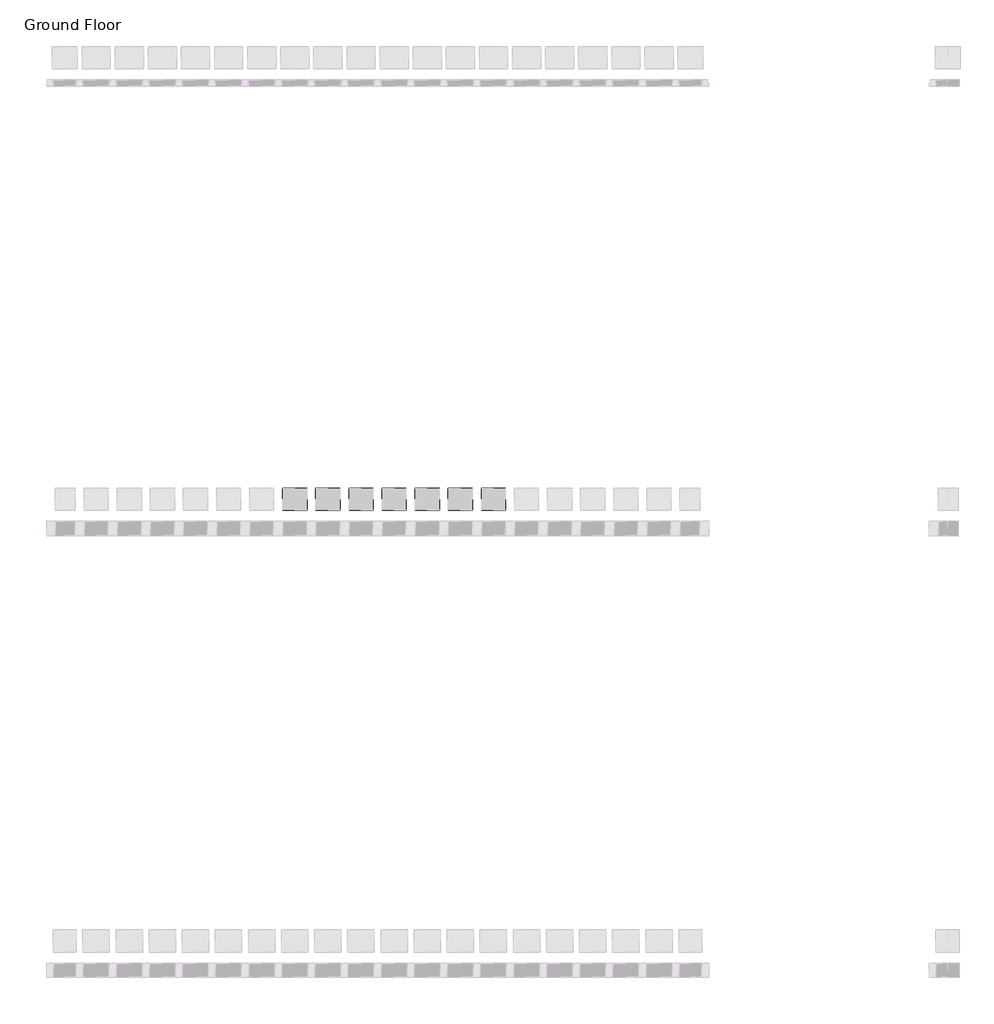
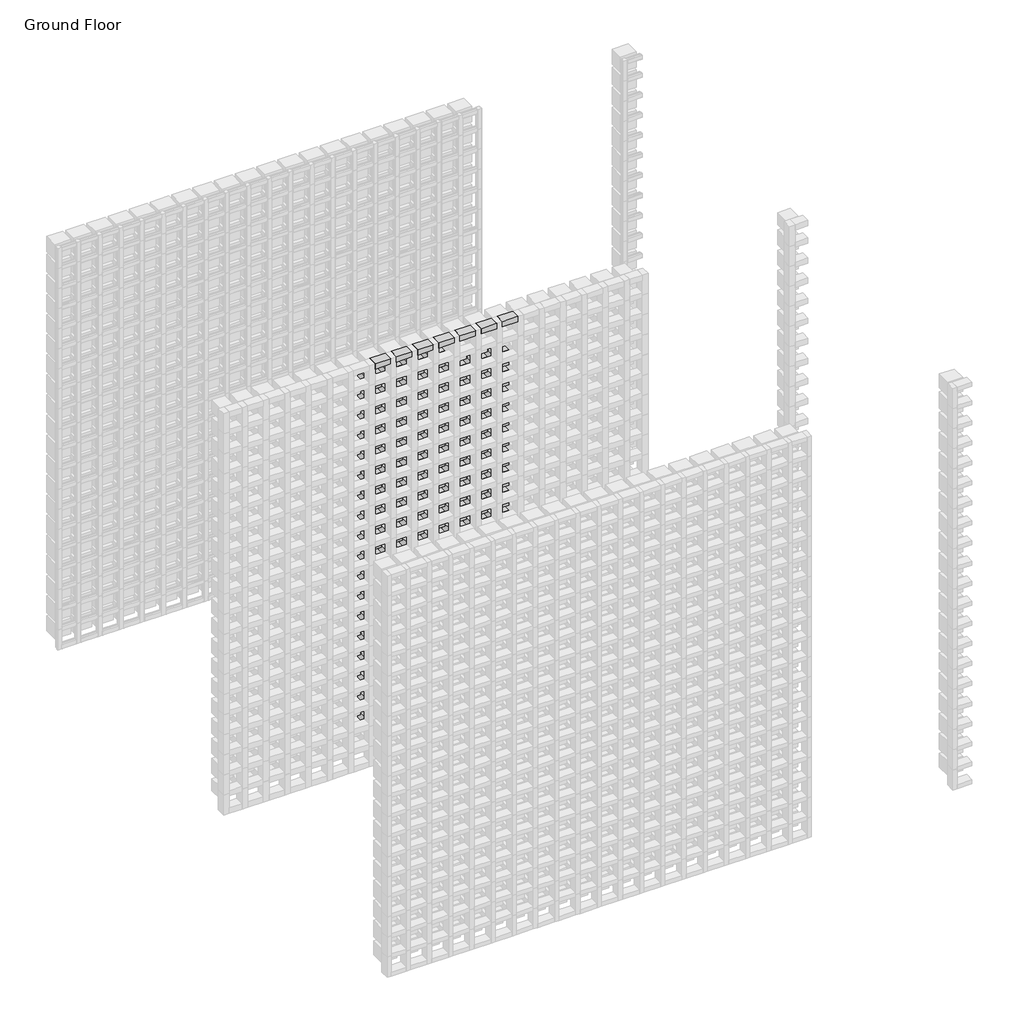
# One storey, part 147 of 350: 123 plates, 17 members.
"""IFC4 building model written with IfcOpenShell, lengths in millimetres."""

from ifc_helpers import new_model, si_unit, origin, place, context, project, spatial, transform, mapped, element, save
from components import rectangular_mullion_655930e9, rectangular_mullion_581565bb, rectangular_mullion_d5b82d3d, empty_system_panel_empty_3b500fad

model = new_model("IFC4")

# Units and contexts
model_context = context("Model", 3, world=origin())
ifc_project = project(units=[si_unit("LENGTHUNIT", "METRE", prefix="MILLI")], contexts=[model_context])

# Site, building, storey
site = spatial("IfcSite", under=ifc_project)
building = spatial("IfcBuilding", under=site)
storey = spatial("IfcBuildingStorey", under=building, Name="Ground Floor", Elevation=0.0)

# Members
placement = place(None, origin())
rectangular_mullion_shape = rectangular_mullion_655930e9(model_context)
element("IfcMember", 1, ObjectType="Rectangular Mullion : Batten_Timber_Modinex_Austratus_Grid_Fascia_40x65_Ironbark", at=placement, inside=storey, context=model_context, shape_type="MappedRepresentation", body=[
    mapped(rectangular_mullion_shape, transform((15416.4361642, 40968.2978302, 0.0), x_axis=(1.0, 0.0, 0.0), y_axis=(0.0, -1.0, 0.0), z_axis=(0.0, 0.0, -1.0))),
])
element("IfcMember", 2, ObjectType="Rectangular Mullion : Batten_Timber_Modinex_Austratus_Grid_Fascia_40x65_Ironbark", at=placement, inside=storey, context=model_context, shape_type="MappedRepresentation", body=[
    mapped(rectangular_mullion_shape, transform((15566.4361642, 40968.2978302, 0.0), x_axis=(1.0, 0.0, 0.0), y_axis=(0.0, -1.0, 0.0), z_axis=(0.0, 0.0, -1.0))),
])
element("IfcMember", 3, ObjectType="Rectangular Mullion : Batten_Timber_Modinex_Austratus_Grid_Fascia_40x65_Ironbark", at=placement, inside=storey, context=model_context, shape_type="MappedRepresentation", body=[
    mapped(rectangular_mullion_shape, transform((15716.4361642, 40968.2978302, 0.0), x_axis=(1.0, 0.0, 0.0), y_axis=(0.0, -1.0, 0.0), z_axis=(0.0, 0.0, -1.0))),
])
element("IfcMember", 4, ObjectType="Rectangular Mullion : Batten_Timber_Modinex_Austratus_Grid_Fascia_40x65_Ironbark", at=placement, inside=storey, context=model_context, shape_type="MappedRepresentation", body=[
    mapped(rectangular_mullion_shape, transform((15866.4361642, 40968.2978302, 0.0), x_axis=(1.0, 0.0, 0.0), y_axis=(0.0, -1.0, 0.0), z_axis=(0.0, 0.0, -1.0))),
])
rectangular_mullion_2_shape = rectangular_mullion_581565bb(model_context)
element("IfcMember", 5, ObjectType="Rectangular Mullion : Batten_Timber_Modinex_Austratus_Grid_Fascia_40x65_Ironbark", at=placement, inside=storey, context=model_context, shape_type="MappedRepresentation", body=[
    mapped(rectangular_mullion_2_shape, transform((15096.4361642, 40968.2978302, 3000.0), x_axis=(0.0, 0.0, 1.0), y_axis=(0.0, -1.0, 0.0), z_axis=(1.0, 0.0, 0.0))),
])
element("IfcMember", 6, ObjectType="Rectangular Mullion : Batten_Timber_Modinex_Austratus_Grid_Fascia_40x65_Ironbark", at=placement, inside=storey, context=model_context, shape_type="MappedRepresentation", body=[
    mapped(rectangular_mullion_2_shape, transform((15246.4361642, 40968.2978302, 3000.0), x_axis=(0.0, 0.0, 1.0), y_axis=(0.0, -1.0, 0.0), z_axis=(1.0, 0.0, 0.0))),
])
element("IfcMember", 7, ObjectType="Rectangular Mullion : Batten_Timber_Modinex_Austratus_Grid_Fascia_40x65_Ironbark", at=placement, inside=storey, context=model_context, shape_type="MappedRepresentation", body=[
    mapped(rectangular_mullion_2_shape, transform((15396.4361642, 40968.2978302, 3000.0), x_axis=(0.0, 0.0, 1.0), y_axis=(0.0, -1.0, 0.0), z_axis=(1.0, 0.0, 0.0))),
])
element("IfcMember", 8, ObjectType="Rectangular Mullion : Batten_Timber_Modinex_Austratus_Grid_Fascia_40x65_Ironbark", at=placement, inside=storey, context=model_context, shape_type="MappedRepresentation", body=[
    mapped(rectangular_mullion_2_shape, transform((15546.4361642, 40968.2978302, 3000.0), x_axis=(0.0, 0.0, 1.0), y_axis=(0.0, -1.0, 0.0), z_axis=(1.0, 0.0, 0.0))),
])
element("IfcMember", 9, ObjectType="Rectangular Mullion : Batten_Timber_Modinex_Austratus_Grid_Fascia_40x65_Ironbark", at=placement, inside=storey, context=model_context, shape_type="MappedRepresentation", body=[
    mapped(rectangular_mullion_2_shape, transform((15696.4361642, 40968.2978302, 3000.0), x_axis=(0.0, 0.0, 1.0), y_axis=(0.0, -1.0, 0.0), z_axis=(1.0, 0.0, 0.0))),
])
element("IfcMember", 10, ObjectType="Rectangular Mullion : Batten_Timber_Modinex_Austratus_Grid_Fascia_40x65_Ironbark", at=placement, inside=storey, context=model_context, shape_type="MappedRepresentation", body=[
    mapped(rectangular_mullion_2_shape, transform((15846.4361642, 40968.2978302, 3000.0), x_axis=(0.0, 0.0, 1.0), y_axis=(0.0, -1.0, 0.0), z_axis=(1.0, 0.0, 0.0))),
])
element("IfcMember", 11, ObjectType="Rectangular Mullion : Batten_Timber_Modinex_Austratus_Grid_Fascia_40x65_Ironbark", at=placement, inside=storey, context=model_context, shape_type="MappedRepresentation", body=[
    mapped(rectangular_mullion_2_shape, transform((15996.4361642, 40968.2978302, 3000.0), x_axis=(0.0, 0.0, 1.0), y_axis=(0.0, -1.0, 0.0), z_axis=(1.0, 0.0, 0.0))),
])
rectangular_mullion_3_shape = rectangular_mullion_d5b82d3d(model_context)
element("IfcMember", 12, ObjectType="Rectangular Mullion : Batten_Timber_Modinex_Austratus_Grid_Fascia_40x65_Ironbark", at=placement, inside=storey, context=model_context, shape_type="MappedRepresentation", body=[
    mapped(rectangular_mullion_3_shape, transform((15136.4361642, 40968.2978302, 0.0), x_axis=(0.0, 0.0, -1.0), y_axis=(0.0, -1.0, 0.0), z_axis=(-1.0, 0.0, 0.0))),
])
element("IfcMember", 13, ObjectType="Rectangular Mullion : Batten_Timber_Modinex_Austratus_Grid_Fascia_40x65_Ironbark", at=placement, inside=storey, context=model_context, shape_type="MappedRepresentation", body=[
    mapped(rectangular_mullion_3_shape, transform((15286.4361642, 40968.2978302, 0.0), x_axis=(0.0, 0.0, -1.0), y_axis=(0.0, -1.0, 0.0), z_axis=(-1.0, 0.0, 0.0))),
])
element("IfcMember", 14, ObjectType="Rectangular Mullion : Batten_Timber_Modinex_Austratus_Grid_Fascia_40x65_Ironbark", at=placement, inside=storey, context=model_context, shape_type="MappedRepresentation", body=[
    mapped(rectangular_mullion_3_shape, transform((15436.4361642, 40968.2978302, 0.0), x_axis=(0.0, 0.0, -1.0), y_axis=(0.0, -1.0, 0.0), z_axis=(-1.0, 0.0, 0.0))),
])
element("IfcMember", 15, ObjectType="Rectangular Mullion : Batten_Timber_Modinex_Austratus_Grid_Fascia_40x65_Ironbark", at=placement, inside=storey, context=model_context, shape_type="MappedRepresentation", body=[
    mapped(rectangular_mullion_3_shape, transform((15586.4361642, 40968.2978302, 0.0), x_axis=(0.0, 0.0, -1.0), y_axis=(0.0, -1.0, 0.0), z_axis=(-1.0, 0.0, 0.0))),
])
element("IfcMember", 16, ObjectType="Rectangular Mullion : Batten_Timber_Modinex_Austratus_Grid_Fascia_40x65_Ironbark", at=placement, inside=storey, context=model_context, shape_type="MappedRepresentation", body=[
    mapped(rectangular_mullion_3_shape, transform((15736.4361642, 40968.2978302, 0.0), x_axis=(0.0, 0.0, -1.0), y_axis=(0.0, -1.0, 0.0), z_axis=(-1.0, 0.0, 0.0))),
])
element("IfcMember", 17, ObjectType="Rectangular Mullion : Batten_Timber_Modinex_Austratus_Grid_Fascia_40x65_Ironbark", at=placement, inside=storey, context=model_context, shape_type="MappedRepresentation", body=[
    mapped(rectangular_mullion_3_shape, transform((15886.4361642, 40968.2978302, 0.0), x_axis=(0.0, 0.0, -1.0), y_axis=(0.0, -1.0, 0.0), z_axis=(-1.0, 0.0, 0.0))),
])

# Plates
empty_system_panel_empty_shape = empty_system_panel_empty_3b500fad(model_context)
element("IfcPlate", 18, ObjectType="Empty System Panel : Empty", at=placement, inside=storey, context=model_context, shape_type="MappedRepresentation", body=[
    mapped(empty_system_panel_empty_shape, transform((15041.4361642, 40968.2978302, 170.0), x_axis=(1.0, 0.0, 0.0), y_axis=(0.0, 1.0, 0.0), z_axis=(0.0, 0.0, 1.0))),
])
element("IfcPlate", 19, ObjectType="Empty System Panel : Empty", at=placement, inside=storey, context=model_context, shape_type="MappedRepresentation", body=[
    mapped(empty_system_panel_empty_shape, transform((15191.4361642, 40968.2978302, 170.0), x_axis=(1.0, 0.0, 0.0), y_axis=(0.0, 1.0, 0.0), z_axis=(0.0, 0.0, 1.0))),
])
element("IfcPlate", 20, ObjectType="Empty System Panel : Empty", at=placement, inside=storey, context=model_context, shape_type="MappedRepresentation", body=[
    mapped(empty_system_panel_empty_shape, transform((15341.4361642, 40968.2978302, 170.0), x_axis=(1.0, 0.0, 0.0), y_axis=(0.0, 1.0, 0.0), z_axis=(0.0, 0.0, 1.0))),
])
element("IfcPlate", 21, ObjectType="Empty System Panel : Empty", at=placement, inside=storey, context=model_context, shape_type="MappedRepresentation", body=[
    mapped(empty_system_panel_empty_shape, transform((15491.4361642, 40968.2978302, 170.0), x_axis=(1.0, 0.0, 0.0), y_axis=(0.0, 1.0, 0.0), z_axis=(0.0, 0.0, 1.0))),
])
element("IfcPlate", 22, ObjectType="Empty System Panel : Empty", at=placement, inside=storey, context=model_context, shape_type="MappedRepresentation", body=[
    mapped(empty_system_panel_empty_shape, transform((15641.4361642, 40968.2978302, 170.0), x_axis=(1.0, 0.0, 0.0), y_axis=(0.0, 1.0, 0.0), z_axis=(0.0, 0.0, 1.0))),
])
element("IfcPlate", 23, ObjectType="Empty System Panel : Empty", at=placement, inside=storey, context=model_context, shape_type="MappedRepresentation", body=[
    mapped(empty_system_panel_empty_shape, transform((15791.4361642, 40968.2978302, 170.0), x_axis=(1.0, 0.0, 0.0), y_axis=(0.0, 1.0, 0.0), z_axis=(0.0, 0.0, 1.0))),
])
element("IfcPlate", 24, ObjectType="Empty System Panel : Empty", at=placement, inside=storey, context=model_context, shape_type="MappedRepresentation", body=[
    mapped(empty_system_panel_empty_shape, transform((15941.4361642, 40968.2978302, 170.0), x_axis=(1.0, 0.0, 0.0), y_axis=(0.0, 1.0, 0.0), z_axis=(0.0, 0.0, 1.0))),
])
element("IfcPlate", 25, ObjectType="Empty System Panel : Empty", at=placement, inside=storey, context=model_context, shape_type="MappedRepresentation", body=[
    mapped(empty_system_panel_empty_shape, transform((15041.4361642, 40968.2978302, 320.0), x_axis=(1.0, 0.0, 0.0), y_axis=(0.0, 1.0, 0.0), z_axis=(0.0, 0.0, 1.0))),
])
element("IfcPlate", 26, ObjectType="Empty System Panel : Empty", at=placement, inside=storey, context=model_context, shape_type="MappedRepresentation", body=[
    mapped(empty_system_panel_empty_shape, transform((15191.4361642, 40968.2978302, 320.0), x_axis=(1.0, 0.0, 0.0), y_axis=(0.0, 1.0, 0.0), z_axis=(0.0, 0.0, 1.0))),
])
element("IfcPlate", 27, ObjectType="Empty System Panel : Empty", at=placement, inside=storey, context=model_context, shape_type="MappedRepresentation", body=[
    mapped(empty_system_panel_empty_shape, transform((15341.4361642, 40968.2978302, 320.0), x_axis=(1.0, 0.0, 0.0), y_axis=(0.0, 1.0, 0.0), z_axis=(0.0, 0.0, 1.0))),
])
element("IfcPlate", 28, ObjectType="Empty System Panel : Empty", at=placement, inside=storey, context=model_context, shape_type="MappedRepresentation", body=[
    mapped(empty_system_panel_empty_shape, transform((15491.4361642, 40968.2978302, 320.0), x_axis=(1.0, 0.0, 0.0), y_axis=(0.0, 1.0, 0.0), z_axis=(0.0, 0.0, 1.0))),
])
element("IfcPlate", 29, ObjectType="Empty System Panel : Empty", at=placement, inside=storey, context=model_context, shape_type="MappedRepresentation", body=[
    mapped(empty_system_panel_empty_shape, transform((15641.4361642, 40968.2978302, 320.0), x_axis=(1.0, 0.0, 0.0), y_axis=(0.0, 1.0, 0.0), z_axis=(0.0, 0.0, 1.0))),
])
element("IfcPlate", 30, ObjectType="Empty System Panel : Empty", at=placement, inside=storey, context=model_context, shape_type="MappedRepresentation", body=[
    mapped(empty_system_panel_empty_shape, transform((15791.4361642, 40968.2978302, 320.0), x_axis=(1.0, 0.0, 0.0), y_axis=(0.0, 1.0, 0.0), z_axis=(0.0, 0.0, 1.0))),
])
element("IfcPlate", 31, ObjectType="Empty System Panel : Empty", at=placement, inside=storey, context=model_context, shape_type="MappedRepresentation", body=[
    mapped(empty_system_panel_empty_shape, transform((15941.4361642, 40968.2978302, 320.0), x_axis=(1.0, 0.0, 0.0), y_axis=(0.0, 1.0, 0.0), z_axis=(0.0, 0.0, 1.0))),
])
element("IfcPlate", 32, ObjectType="Empty System Panel : Empty", at=placement, inside=storey, context=model_context, shape_type="MappedRepresentation", body=[
    mapped(empty_system_panel_empty_shape, transform((15041.4361642, 40968.2978302, 470.0), x_axis=(1.0, 0.0, 0.0), y_axis=(0.0, 1.0, 0.0), z_axis=(0.0, 0.0, 1.0))),
])
element("IfcPlate", 33, ObjectType="Empty System Panel : Empty", at=placement, inside=storey, context=model_context, shape_type="MappedRepresentation", body=[
    mapped(empty_system_panel_empty_shape, transform((15191.4361642, 40968.2978302, 470.0), x_axis=(1.0, 0.0, 0.0), y_axis=(0.0, 1.0, 0.0), z_axis=(0.0, 0.0, 1.0))),
])
element("IfcPlate", 34, ObjectType="Empty System Panel : Empty", at=placement, inside=storey, context=model_context, shape_type="MappedRepresentation", body=[
    mapped(empty_system_panel_empty_shape, transform((15341.4361642, 40968.2978302, 470.0), x_axis=(1.0, 0.0, 0.0), y_axis=(0.0, 1.0, 0.0), z_axis=(0.0, 0.0, 1.0))),
])
element("IfcPlate", 35, ObjectType="Empty System Panel : Empty", at=placement, inside=storey, context=model_context, shape_type="MappedRepresentation", body=[
    mapped(empty_system_panel_empty_shape, transform((15491.4361642, 40968.2978302, 470.0), x_axis=(1.0, 0.0, 0.0), y_axis=(0.0, 1.0, 0.0), z_axis=(0.0, 0.0, 1.0))),
])
element("IfcPlate", 36, ObjectType="Empty System Panel : Empty", at=placement, inside=storey, context=model_context, shape_type="MappedRepresentation", body=[
    mapped(empty_system_panel_empty_shape, transform((15641.4361642, 40968.2978302, 470.0), x_axis=(1.0, 0.0, 0.0), y_axis=(0.0, 1.0, 0.0), z_axis=(0.0, 0.0, 1.0))),
])
element("IfcPlate", 37, ObjectType="Empty System Panel : Empty", at=placement, inside=storey, context=model_context, shape_type="MappedRepresentation", body=[
    mapped(empty_system_panel_empty_shape, transform((15791.4361642, 40968.2978302, 470.0), x_axis=(1.0, 0.0, 0.0), y_axis=(0.0, 1.0, 0.0), z_axis=(0.0, 0.0, 1.0))),
])
element("IfcPlate", 38, ObjectType="Empty System Panel : Empty", at=placement, inside=storey, context=model_context, shape_type="MappedRepresentation", body=[
    mapped(empty_system_panel_empty_shape, transform((15941.4361642, 40968.2978302, 470.0), x_axis=(1.0, 0.0, 0.0), y_axis=(0.0, 1.0, 0.0), z_axis=(0.0, 0.0, 1.0))),
])
element("IfcPlate", 39, ObjectType="Empty System Panel : Empty", at=placement, inside=storey, context=model_context, shape_type="MappedRepresentation", body=[
    mapped(empty_system_panel_empty_shape, transform((15041.4361642, 40968.2978302, 620.0), x_axis=(1.0, 0.0, 0.0), y_axis=(0.0, 1.0, 0.0), z_axis=(0.0, 0.0, 1.0))),
])
element("IfcPlate", 40, ObjectType="Empty System Panel : Empty", at=placement, inside=storey, context=model_context, shape_type="MappedRepresentation", body=[
    mapped(empty_system_panel_empty_shape, transform((15191.4361642, 40968.2978302, 620.0), x_axis=(1.0, 0.0, 0.0), y_axis=(0.0, 1.0, 0.0), z_axis=(0.0, 0.0, 1.0))),
])
element("IfcPlate", 41, ObjectType="Empty System Panel : Empty", at=placement, inside=storey, context=model_context, shape_type="MappedRepresentation", body=[
    mapped(empty_system_panel_empty_shape, transform((15341.4361642, 40968.2978302, 620.0), x_axis=(1.0, 0.0, 0.0), y_axis=(0.0, 1.0, 0.0), z_axis=(0.0, 0.0, 1.0))),
])
element("IfcPlate", 42, ObjectType="Empty System Panel : Empty", at=placement, inside=storey, context=model_context, shape_type="MappedRepresentation", body=[
    mapped(empty_system_panel_empty_shape, transform((15491.4361642, 40968.2978302, 620.0), x_axis=(1.0, 0.0, 0.0), y_axis=(0.0, 1.0, 0.0), z_axis=(0.0, 0.0, 1.0))),
])
element("IfcPlate", 43, ObjectType="Empty System Panel : Empty", at=placement, inside=storey, context=model_context, shape_type="MappedRepresentation", body=[
    mapped(empty_system_panel_empty_shape, transform((15641.4361642, 40968.2978302, 620.0), x_axis=(1.0, 0.0, 0.0), y_axis=(0.0, 1.0, 0.0), z_axis=(0.0, 0.0, 1.0))),
])
element("IfcPlate", 44, ObjectType="Empty System Panel : Empty", at=placement, inside=storey, context=model_context, shape_type="MappedRepresentation", body=[
    mapped(empty_system_panel_empty_shape, transform((15791.4361642, 40968.2978302, 620.0), x_axis=(1.0, 0.0, 0.0), y_axis=(0.0, 1.0, 0.0), z_axis=(0.0, 0.0, 1.0))),
])
element("IfcPlate", 45, ObjectType="Empty System Panel : Empty", at=placement, inside=storey, context=model_context, shape_type="MappedRepresentation", body=[
    mapped(empty_system_panel_empty_shape, transform((15941.4361642, 40968.2978302, 620.0), x_axis=(1.0, 0.0, 0.0), y_axis=(0.0, 1.0, 0.0), z_axis=(0.0, 0.0, 1.0))),
])
element("IfcPlate", 46, ObjectType="Empty System Panel : Empty", at=placement, inside=storey, context=model_context, shape_type="MappedRepresentation", body=[
    mapped(empty_system_panel_empty_shape, transform((15041.4361642, 40968.2978302, 770.0), x_axis=(1.0, 0.0, 0.0), y_axis=(0.0, 1.0, 0.0), z_axis=(0.0, 0.0, 1.0))),
])
element("IfcPlate", 47, ObjectType="Empty System Panel : Empty", at=placement, inside=storey, context=model_context, shape_type="MappedRepresentation", body=[
    mapped(empty_system_panel_empty_shape, transform((15191.4361642, 40968.2978302, 770.0), x_axis=(1.0, 0.0, 0.0), y_axis=(0.0, 1.0, 0.0), z_axis=(0.0, 0.0, 1.0))),
])
element("IfcPlate", 48, ObjectType="Empty System Panel : Empty", at=placement, inside=storey, context=model_context, shape_type="MappedRepresentation", body=[
    mapped(empty_system_panel_empty_shape, transform((15341.4361642, 40968.2978302, 770.0), x_axis=(1.0, 0.0, 0.0), y_axis=(0.0, 1.0, 0.0), z_axis=(0.0, 0.0, 1.0))),
])
element("IfcPlate", 49, ObjectType="Empty System Panel : Empty", at=placement, inside=storey, context=model_context, shape_type="MappedRepresentation", body=[
    mapped(empty_system_panel_empty_shape, transform((15491.4361642, 40968.2978302, 770.0), x_axis=(1.0, 0.0, 0.0), y_axis=(0.0, 1.0, 0.0), z_axis=(0.0, 0.0, 1.0))),
])
element("IfcPlate", 50, ObjectType="Empty System Panel : Empty", at=placement, inside=storey, context=model_context, shape_type="MappedRepresentation", body=[
    mapped(empty_system_panel_empty_shape, transform((15641.4361642, 40968.2978302, 770.0), x_axis=(1.0, 0.0, 0.0), y_axis=(0.0, 1.0, 0.0), z_axis=(0.0, 0.0, 1.0))),
])
element("IfcPlate", 51, ObjectType="Empty System Panel : Empty", at=placement, inside=storey, context=model_context, shape_type="MappedRepresentation", body=[
    mapped(empty_system_panel_empty_shape, transform((15791.4361642, 40968.2978302, 770.0), x_axis=(1.0, 0.0, 0.0), y_axis=(0.0, 1.0, 0.0), z_axis=(0.0, 0.0, 1.0))),
])
element("IfcPlate", 52, ObjectType="Empty System Panel : Empty", at=placement, inside=storey, context=model_context, shape_type="MappedRepresentation", body=[
    mapped(empty_system_panel_empty_shape, transform((15941.4361642, 40968.2978302, 770.0), x_axis=(1.0, 0.0, 0.0), y_axis=(0.0, 1.0, 0.0), z_axis=(0.0, 0.0, 1.0))),
])
element("IfcPlate", 53, ObjectType="Empty System Panel : Empty", at=placement, inside=storey, context=model_context, shape_type="MappedRepresentation", body=[
    mapped(empty_system_panel_empty_shape, transform((15041.4361642, 40968.2978302, 920.0), x_axis=(1.0, 0.0, 0.0), y_axis=(0.0, 1.0, 0.0), z_axis=(0.0, 0.0, 1.0))),
])
element("IfcPlate", 54, ObjectType="Empty System Panel : Empty", at=placement, inside=storey, context=model_context, shape_type="MappedRepresentation", body=[
    mapped(empty_system_panel_empty_shape, transform((15191.4361642, 40968.2978302, 920.0), x_axis=(1.0, 0.0, 0.0), y_axis=(0.0, 1.0, 0.0), z_axis=(0.0, 0.0, 1.0))),
])
element("IfcPlate", 55, ObjectType="Empty System Panel : Empty", at=placement, inside=storey, context=model_context, shape_type="MappedRepresentation", body=[
    mapped(empty_system_panel_empty_shape, transform((15341.4361642, 40968.2978302, 920.0), x_axis=(1.0, 0.0, 0.0), y_axis=(0.0, 1.0, 0.0), z_axis=(0.0, 0.0, 1.0))),
])
element("IfcPlate", 56, ObjectType="Empty System Panel : Empty", at=placement, inside=storey, context=model_context, shape_type="MappedRepresentation", body=[
    mapped(empty_system_panel_empty_shape, transform((15491.4361642, 40968.2978302, 920.0), x_axis=(1.0, 0.0, 0.0), y_axis=(0.0, 1.0, 0.0), z_axis=(0.0, 0.0, 1.0))),
])
element("IfcPlate", 57, ObjectType="Empty System Panel : Empty", at=placement, inside=storey, context=model_context, shape_type="MappedRepresentation", body=[
    mapped(empty_system_panel_empty_shape, transform((15641.4361642, 40968.2978302, 920.0), x_axis=(1.0, 0.0, 0.0), y_axis=(0.0, 1.0, 0.0), z_axis=(0.0, 0.0, 1.0))),
])
element("IfcPlate", 58, ObjectType="Empty System Panel : Empty", at=placement, inside=storey, context=model_context, shape_type="MappedRepresentation", body=[
    mapped(empty_system_panel_empty_shape, transform((15791.4361642, 40968.2978302, 920.0), x_axis=(1.0, 0.0, 0.0), y_axis=(0.0, 1.0, 0.0), z_axis=(0.0, 0.0, 1.0))),
])
element("IfcPlate", 59, ObjectType="Empty System Panel : Empty", at=placement, inside=storey, context=model_context, shape_type="MappedRepresentation", body=[
    mapped(empty_system_panel_empty_shape, transform((15941.4361642, 40968.2978302, 920.0), x_axis=(1.0, 0.0, 0.0), y_axis=(0.0, 1.0, 0.0), z_axis=(0.0, 0.0, 1.0))),
])
element("IfcPlate", 60, ObjectType="Empty System Panel : Empty", at=placement, inside=storey, context=model_context, shape_type="MappedRepresentation", body=[
    mapped(empty_system_panel_empty_shape, transform((15041.4361642, 40968.2978302, 1070.0), x_axis=(1.0, 0.0, 0.0), y_axis=(0.0, 1.0, 0.0), z_axis=(0.0, 0.0, 1.0))),
])
element("IfcPlate", 61, ObjectType="Empty System Panel : Empty", at=placement, inside=storey, context=model_context, shape_type="MappedRepresentation", body=[
    mapped(empty_system_panel_empty_shape, transform((15191.4361642, 40968.2978302, 1070.0), x_axis=(1.0, 0.0, 0.0), y_axis=(0.0, 1.0, 0.0), z_axis=(0.0, 0.0, 1.0))),
])
element("IfcPlate", 62, ObjectType="Empty System Panel : Empty", at=placement, inside=storey, context=model_context, shape_type="MappedRepresentation", body=[
    mapped(empty_system_panel_empty_shape, transform((15341.4361642, 40968.2978302, 1070.0), x_axis=(1.0, 0.0, 0.0), y_axis=(0.0, 1.0, 0.0), z_axis=(0.0, 0.0, 1.0))),
])
element("IfcPlate", 63, ObjectType="Empty System Panel : Empty", at=placement, inside=storey, context=model_context, shape_type="MappedRepresentation", body=[
    mapped(empty_system_panel_empty_shape, transform((15491.4361642, 40968.2978302, 1070.0), x_axis=(1.0, 0.0, 0.0), y_axis=(0.0, 1.0, 0.0), z_axis=(0.0, 0.0, 1.0))),
])
element("IfcPlate", 64, ObjectType="Empty System Panel : Empty", at=placement, inside=storey, context=model_context, shape_type="MappedRepresentation", body=[
    mapped(empty_system_panel_empty_shape, transform((15641.4361642, 40968.2978302, 1070.0), x_axis=(1.0, 0.0, 0.0), y_axis=(0.0, 1.0, 0.0), z_axis=(0.0, 0.0, 1.0))),
])
element("IfcPlate", 65, ObjectType="Empty System Panel : Empty", at=placement, inside=storey, context=model_context, shape_type="MappedRepresentation", body=[
    mapped(empty_system_panel_empty_shape, transform((15791.4361642, 40968.2978302, 1070.0), x_axis=(1.0, 0.0, 0.0), y_axis=(0.0, 1.0, 0.0), z_axis=(0.0, 0.0, 1.0))),
])
element("IfcPlate", 66, ObjectType="Empty System Panel : Empty", at=placement, inside=storey, context=model_context, shape_type="MappedRepresentation", body=[
    mapped(empty_system_panel_empty_shape, transform((15941.4361642, 40968.2978302, 1070.0), x_axis=(1.0, 0.0, 0.0), y_axis=(0.0, 1.0, 0.0), z_axis=(0.0, 0.0, 1.0))),
])
element("IfcPlate", 67, ObjectType="Empty System Panel : Empty", at=placement, inside=storey, context=model_context, shape_type="MappedRepresentation", body=[
    mapped(empty_system_panel_empty_shape, transform((15041.4361642, 40968.2978302, 1220.0), x_axis=(1.0, 0.0, 0.0), y_axis=(0.0, 1.0, 0.0), z_axis=(0.0, 0.0, 1.0))),
])
element("IfcPlate", 68, ObjectType="Empty System Panel : Empty", at=placement, inside=storey, context=model_context, shape_type="MappedRepresentation", body=[
    mapped(empty_system_panel_empty_shape, transform((15191.4361642, 40968.2978302, 1220.0), x_axis=(1.0, 0.0, 0.0), y_axis=(0.0, 1.0, 0.0), z_axis=(0.0, 0.0, 1.0))),
])
element("IfcPlate", 69, ObjectType="Empty System Panel : Empty", at=placement, inside=storey, context=model_context, shape_type="MappedRepresentation", body=[
    mapped(empty_system_panel_empty_shape, transform((15341.4361642, 40968.2978302, 1220.0), x_axis=(1.0, 0.0, 0.0), y_axis=(0.0, 1.0, 0.0), z_axis=(0.0, 0.0, 1.0))),
])
element("IfcPlate", 70, ObjectType="Empty System Panel : Empty", at=placement, inside=storey, context=model_context, shape_type="MappedRepresentation", body=[
    mapped(empty_system_panel_empty_shape, transform((15491.4361642, 40968.2978302, 1220.0), x_axis=(1.0, 0.0, 0.0), y_axis=(0.0, 1.0, 0.0), z_axis=(0.0, 0.0, 1.0))),
])
element("IfcPlate", 71, ObjectType="Empty System Panel : Empty", at=placement, inside=storey, context=model_context, shape_type="MappedRepresentation", body=[
    mapped(empty_system_panel_empty_shape, transform((15641.4361642, 40968.2978302, 1220.0), x_axis=(1.0, 0.0, 0.0), y_axis=(0.0, 1.0, 0.0), z_axis=(0.0, 0.0, 1.0))),
])
element("IfcPlate", 72, ObjectType="Empty System Panel : Empty", at=placement, inside=storey, context=model_context, shape_type="MappedRepresentation", body=[
    mapped(empty_system_panel_empty_shape, transform((15791.4361642, 40968.2978302, 1220.0), x_axis=(1.0, 0.0, 0.0), y_axis=(0.0, 1.0, 0.0), z_axis=(0.0, 0.0, 1.0))),
])
element("IfcPlate", 73, ObjectType="Empty System Panel : Empty", at=placement, inside=storey, context=model_context, shape_type="MappedRepresentation", body=[
    mapped(empty_system_panel_empty_shape, transform((15941.4361642, 40968.2978302, 1220.0), x_axis=(1.0, 0.0, 0.0), y_axis=(0.0, 1.0, 0.0), z_axis=(0.0, 0.0, 1.0))),
])
element("IfcPlate", 74, ObjectType="Empty System Panel : Empty", at=placement, inside=storey, context=model_context, shape_type="MappedRepresentation", body=[
    mapped(empty_system_panel_empty_shape, transform((15041.4361642, 40968.2978302, 1370.0), x_axis=(1.0, 0.0, 0.0), y_axis=(0.0, 1.0, 0.0), z_axis=(0.0, 0.0, 1.0))),
])
element("IfcPlate", 75, ObjectType="Empty System Panel : Empty", at=placement, inside=storey, context=model_context, shape_type="MappedRepresentation", body=[
    mapped(empty_system_panel_empty_shape, transform((15191.4361642, 40968.2978302, 1370.0), x_axis=(1.0, 0.0, 0.0), y_axis=(0.0, 1.0, 0.0), z_axis=(0.0, 0.0, 1.0))),
])
element("IfcPlate", 76, ObjectType="Empty System Panel : Empty", at=placement, inside=storey, context=model_context, shape_type="MappedRepresentation", body=[
    mapped(empty_system_panel_empty_shape, transform((15341.4361642, 40968.2978302, 1370.0), x_axis=(1.0, 0.0, 0.0), y_axis=(0.0, 1.0, 0.0), z_axis=(0.0, 0.0, 1.0))),
])
element("IfcPlate", 77, ObjectType="Empty System Panel : Empty", at=placement, inside=storey, context=model_context, shape_type="MappedRepresentation", body=[
    mapped(empty_system_panel_empty_shape, transform((15491.4361642, 40968.2978302, 1370.0), x_axis=(1.0, 0.0, 0.0), y_axis=(0.0, 1.0, 0.0), z_axis=(0.0, 0.0, 1.0))),
])
element("IfcPlate", 78, ObjectType="Empty System Panel : Empty", at=placement, inside=storey, context=model_context, shape_type="MappedRepresentation", body=[
    mapped(empty_system_panel_empty_shape, transform((15641.4361642, 40968.2978302, 1370.0), x_axis=(1.0, 0.0, 0.0), y_axis=(0.0, 1.0, 0.0), z_axis=(0.0, 0.0, 1.0))),
])
element("IfcPlate", 79, ObjectType="Empty System Panel : Empty", at=placement, inside=storey, context=model_context, shape_type="MappedRepresentation", body=[
    mapped(empty_system_panel_empty_shape, transform((15791.4361642, 40968.2978302, 1370.0), x_axis=(1.0, 0.0, 0.0), y_axis=(0.0, 1.0, 0.0), z_axis=(0.0, 0.0, 1.0))),
])
element("IfcPlate", 80, ObjectType="Empty System Panel : Empty", at=placement, inside=storey, context=model_context, shape_type="MappedRepresentation", body=[
    mapped(empty_system_panel_empty_shape, transform((15941.4361642, 40968.2978302, 1370.0), x_axis=(1.0, 0.0, 0.0), y_axis=(0.0, 1.0, 0.0), z_axis=(0.0, 0.0, 1.0))),
])
element("IfcPlate", 81, ObjectType="Empty System Panel : Empty", at=placement, inside=storey, context=model_context, shape_type="MappedRepresentation", body=[
    mapped(empty_system_panel_empty_shape, transform((15041.4361642, 40968.2978302, 1520.0), x_axis=(1.0, 0.0, 0.0), y_axis=(0.0, 1.0, 0.0), z_axis=(0.0, 0.0, 1.0))),
])
element("IfcPlate", 82, ObjectType="Empty System Panel : Empty", at=placement, inside=storey, context=model_context, shape_type="MappedRepresentation", body=[
    mapped(empty_system_panel_empty_shape, transform((15191.4361642, 40968.2978302, 1520.0), x_axis=(1.0, 0.0, 0.0), y_axis=(0.0, 1.0, 0.0), z_axis=(0.0, 0.0, 1.0))),
])
element("IfcPlate", 83, ObjectType="Empty System Panel : Empty", at=placement, inside=storey, context=model_context, shape_type="MappedRepresentation", body=[
    mapped(empty_system_panel_empty_shape, transform((15341.4361642, 40968.2978302, 1520.0), x_axis=(1.0, 0.0, 0.0), y_axis=(0.0, 1.0, 0.0), z_axis=(0.0, 0.0, 1.0))),
])
element("IfcPlate", 84, ObjectType="Empty System Panel : Empty", at=placement, inside=storey, context=model_context, shape_type="MappedRepresentation", body=[
    mapped(empty_system_panel_empty_shape, transform((15491.4361642, 40968.2978302, 1520.0), x_axis=(1.0, 0.0, 0.0), y_axis=(0.0, 1.0, 0.0), z_axis=(0.0, 0.0, 1.0))),
])
element("IfcPlate", 85, ObjectType="Empty System Panel : Empty", at=placement, inside=storey, context=model_context, shape_type="MappedRepresentation", body=[
    mapped(empty_system_panel_empty_shape, transform((15641.4361642, 40968.2978302, 1520.0), x_axis=(1.0, 0.0, 0.0), y_axis=(0.0, 1.0, 0.0), z_axis=(0.0, 0.0, 1.0))),
])
element("IfcPlate", 86, ObjectType="Empty System Panel : Empty", at=placement, inside=storey, context=model_context, shape_type="MappedRepresentation", body=[
    mapped(empty_system_panel_empty_shape, transform((15791.4361642, 40968.2978302, 1520.0), x_axis=(1.0, 0.0, 0.0), y_axis=(0.0, 1.0, 0.0), z_axis=(0.0, 0.0, 1.0))),
])
element("IfcPlate", 87, ObjectType="Empty System Panel : Empty", at=placement, inside=storey, context=model_context, shape_type="MappedRepresentation", body=[
    mapped(empty_system_panel_empty_shape, transform((15941.4361642, 40968.2978302, 1520.0), x_axis=(1.0, 0.0, 0.0), y_axis=(0.0, 1.0, 0.0), z_axis=(0.0, 0.0, 1.0))),
])
element("IfcPlate", 88, ObjectType="Empty System Panel : Empty", at=placement, inside=storey, context=model_context, shape_type="MappedRepresentation", body=[
    mapped(empty_system_panel_empty_shape, transform((15041.4361642, 40968.2978302, 1670.0), x_axis=(1.0, 0.0, 0.0), y_axis=(0.0, 1.0, 0.0), z_axis=(0.0, 0.0, 1.0))),
])
element("IfcPlate", 89, ObjectType="Empty System Panel : Empty", at=placement, inside=storey, context=model_context, shape_type="MappedRepresentation", body=[
    mapped(empty_system_panel_empty_shape, transform((15191.4361642, 40968.2978302, 1670.0), x_axis=(1.0, 0.0, 0.0), y_axis=(0.0, 1.0, 0.0), z_axis=(0.0, 0.0, 1.0))),
])
element("IfcPlate", 90, ObjectType="Empty System Panel : Empty", at=placement, inside=storey, context=model_context, shape_type="MappedRepresentation", body=[
    mapped(empty_system_panel_empty_shape, transform((15341.4361642, 40968.2978302, 1670.0), x_axis=(1.0, 0.0, 0.0), y_axis=(0.0, 1.0, 0.0), z_axis=(0.0, 0.0, 1.0))),
])
element("IfcPlate", 91, ObjectType="Empty System Panel : Empty", at=placement, inside=storey, context=model_context, shape_type="MappedRepresentation", body=[
    mapped(empty_system_panel_empty_shape, transform((15491.4361642, 40968.2978302, 1670.0), x_axis=(1.0, 0.0, 0.0), y_axis=(0.0, 1.0, 0.0), z_axis=(0.0, 0.0, 1.0))),
])
element("IfcPlate", 92, ObjectType="Empty System Panel : Empty", at=placement, inside=storey, context=model_context, shape_type="MappedRepresentation", body=[
    mapped(empty_system_panel_empty_shape, transform((15641.4361642, 40968.2978302, 1670.0), x_axis=(1.0, 0.0, 0.0), y_axis=(0.0, 1.0, 0.0), z_axis=(0.0, 0.0, 1.0))),
])
element("IfcPlate", 93, ObjectType="Empty System Panel : Empty", at=placement, inside=storey, context=model_context, shape_type="MappedRepresentation", body=[
    mapped(empty_system_panel_empty_shape, transform((15791.4361642, 40968.2978302, 1670.0), x_axis=(1.0, 0.0, 0.0), y_axis=(0.0, 1.0, 0.0), z_axis=(0.0, 0.0, 1.0))),
])
element("IfcPlate", 94, ObjectType="Empty System Panel : Empty", at=placement, inside=storey, context=model_context, shape_type="MappedRepresentation", body=[
    mapped(empty_system_panel_empty_shape, transform((15941.4361642, 40968.2978302, 1670.0), x_axis=(1.0, 0.0, 0.0), y_axis=(0.0, 1.0, 0.0), z_axis=(0.0, 0.0, 1.0))),
])
element("IfcPlate", 95, ObjectType="Empty System Panel : Empty", at=placement, inside=storey, context=model_context, shape_type="MappedRepresentation", body=[
    mapped(empty_system_panel_empty_shape, transform((15041.4361642, 40968.2978302, 1820.0), x_axis=(1.0, 0.0, 0.0), y_axis=(0.0, 1.0, 0.0), z_axis=(0.0, 0.0, 1.0))),
])
element("IfcPlate", 96, ObjectType="Empty System Panel : Empty", at=placement, inside=storey, context=model_context, shape_type="MappedRepresentation", body=[
    mapped(empty_system_panel_empty_shape, transform((15191.4361642, 40968.2978302, 1820.0), x_axis=(1.0, 0.0, 0.0), y_axis=(0.0, 1.0, 0.0), z_axis=(0.0, 0.0, 1.0))),
])
element("IfcPlate", 97, ObjectType="Empty System Panel : Empty", at=placement, inside=storey, context=model_context, shape_type="MappedRepresentation", body=[
    mapped(empty_system_panel_empty_shape, transform((15341.4361642, 40968.2978302, 1820.0), x_axis=(1.0, 0.0, 0.0), y_axis=(0.0, 1.0, 0.0), z_axis=(0.0, 0.0, 1.0))),
])
element("IfcPlate", 98, ObjectType="Empty System Panel : Empty", at=placement, inside=storey, context=model_context, shape_type="MappedRepresentation", body=[
    mapped(empty_system_panel_empty_shape, transform((15491.4361642, 40968.2978302, 1820.0), x_axis=(1.0, 0.0, 0.0), y_axis=(0.0, 1.0, 0.0), z_axis=(0.0, 0.0, 1.0))),
])
element("IfcPlate", 99, ObjectType="Empty System Panel : Empty", at=placement, inside=storey, context=model_context, shape_type="MappedRepresentation", body=[
    mapped(empty_system_panel_empty_shape, transform((15641.4361642, 40968.2978302, 1820.0), x_axis=(1.0, 0.0, 0.0), y_axis=(0.0, 1.0, 0.0), z_axis=(0.0, 0.0, 1.0))),
])
element("IfcPlate", 100, ObjectType="Empty System Panel : Empty", at=placement, inside=storey, context=model_context, shape_type="MappedRepresentation", body=[
    mapped(empty_system_panel_empty_shape, transform((15791.4361642, 40968.2978302, 1820.0), x_axis=(1.0, 0.0, 0.0), y_axis=(0.0, 1.0, 0.0), z_axis=(0.0, 0.0, 1.0))),
])
element("IfcPlate", 101, ObjectType="Empty System Panel : Empty", at=placement, inside=storey, context=model_context, shape_type="MappedRepresentation", body=[
    mapped(empty_system_panel_empty_shape, transform((15941.4361642, 40968.2978302, 1820.0), x_axis=(1.0, 0.0, 0.0), y_axis=(0.0, 1.0, 0.0), z_axis=(0.0, 0.0, 1.0))),
])
element("IfcPlate", 102, ObjectType="Empty System Panel : Empty", at=placement, inside=storey, context=model_context, shape_type="MappedRepresentation", body=[
    mapped(empty_system_panel_empty_shape, transform((15041.4361642, 40968.2978302, 1970.0), x_axis=(1.0, 0.0, 0.0), y_axis=(0.0, 1.0, 0.0), z_axis=(0.0, 0.0, 1.0))),
])
element("IfcPlate", 103, ObjectType="Empty System Panel : Empty", at=placement, inside=storey, context=model_context, shape_type="MappedRepresentation", body=[
    mapped(empty_system_panel_empty_shape, transform((15191.4361642, 40968.2978302, 1970.0), x_axis=(1.0, 0.0, 0.0), y_axis=(0.0, 1.0, 0.0), z_axis=(0.0, 0.0, 1.0))),
])
element("IfcPlate", 104, ObjectType="Empty System Panel : Empty", at=placement, inside=storey, context=model_context, shape_type="MappedRepresentation", body=[
    mapped(empty_system_panel_empty_shape, transform((15341.4361642, 40968.2978302, 1970.0), x_axis=(1.0, 0.0, 0.0), y_axis=(0.0, 1.0, 0.0), z_axis=(0.0, 0.0, 1.0))),
])
element("IfcPlate", 105, ObjectType="Empty System Panel : Empty", at=placement, inside=storey, context=model_context, shape_type="MappedRepresentation", body=[
    mapped(empty_system_panel_empty_shape, transform((15491.4361642, 40968.2978302, 1970.0), x_axis=(1.0, 0.0, 0.0), y_axis=(0.0, 1.0, 0.0), z_axis=(0.0, 0.0, 1.0))),
])
element("IfcPlate", 106, ObjectType="Empty System Panel : Empty", at=placement, inside=storey, context=model_context, shape_type="MappedRepresentation", body=[
    mapped(empty_system_panel_empty_shape, transform((15641.4361642, 40968.2978302, 1970.0), x_axis=(1.0, 0.0, 0.0), y_axis=(0.0, 1.0, 0.0), z_axis=(0.0, 0.0, 1.0))),
])
element("IfcPlate", 107, ObjectType="Empty System Panel : Empty", at=placement, inside=storey, context=model_context, shape_type="MappedRepresentation", body=[
    mapped(empty_system_panel_empty_shape, transform((15791.4361642, 40968.2978302, 1970.0), x_axis=(1.0, 0.0, 0.0), y_axis=(0.0, 1.0, 0.0), z_axis=(0.0, 0.0, 1.0))),
])
element("IfcPlate", 108, ObjectType="Empty System Panel : Empty", at=placement, inside=storey, context=model_context, shape_type="MappedRepresentation", body=[
    mapped(empty_system_panel_empty_shape, transform((15941.4361642, 40968.2978302, 1970.0), x_axis=(1.0, 0.0, 0.0), y_axis=(0.0, 1.0, 0.0), z_axis=(0.0, 0.0, 1.0))),
])
element("IfcPlate", 109, ObjectType="Empty System Panel : Empty", at=placement, inside=storey, context=model_context, shape_type="MappedRepresentation", body=[
    mapped(empty_system_panel_empty_shape, transform((15041.4361642, 40968.2978302, 2120.0), x_axis=(1.0, 0.0, 0.0), y_axis=(0.0, 1.0, 0.0), z_axis=(0.0, 0.0, 1.0))),
])
element("IfcPlate", 110, ObjectType="Empty System Panel : Empty", at=placement, inside=storey, context=model_context, shape_type="MappedRepresentation", body=[
    mapped(empty_system_panel_empty_shape, transform((15191.4361642, 40968.2978302, 2120.0), x_axis=(1.0, 0.0, 0.0), y_axis=(0.0, 1.0, 0.0), z_axis=(0.0, 0.0, 1.0))),
])
element("IfcPlate", 111, ObjectType="Empty System Panel : Empty", at=placement, inside=storey, context=model_context, shape_type="MappedRepresentation", body=[
    mapped(empty_system_panel_empty_shape, transform((15341.4361642, 40968.2978302, 2120.0), x_axis=(1.0, 0.0, 0.0), y_axis=(0.0, 1.0, 0.0), z_axis=(0.0, 0.0, 1.0))),
])
element("IfcPlate", 112, ObjectType="Empty System Panel : Empty", at=placement, inside=storey, context=model_context, shape_type="MappedRepresentation", body=[
    mapped(empty_system_panel_empty_shape, transform((15491.4361642, 40968.2978302, 2120.0), x_axis=(1.0, 0.0, 0.0), y_axis=(0.0, 1.0, 0.0), z_axis=(0.0, 0.0, 1.0))),
])
element("IfcPlate", 113, ObjectType="Empty System Panel : Empty", at=placement, inside=storey, context=model_context, shape_type="MappedRepresentation", body=[
    mapped(empty_system_panel_empty_shape, transform((15641.4361642, 40968.2978302, 2120.0), x_axis=(1.0, 0.0, 0.0), y_axis=(0.0, 1.0, 0.0), z_axis=(0.0, 0.0, 1.0))),
])
element("IfcPlate", 114, ObjectType="Empty System Panel : Empty", at=placement, inside=storey, context=model_context, shape_type="MappedRepresentation", body=[
    mapped(empty_system_panel_empty_shape, transform((15791.4361642, 40968.2978302, 2120.0), x_axis=(1.0, 0.0, 0.0), y_axis=(0.0, 1.0, 0.0), z_axis=(0.0, 0.0, 1.0))),
])
element("IfcPlate", 115, ObjectType="Empty System Panel : Empty", at=placement, inside=storey, context=model_context, shape_type="MappedRepresentation", body=[
    mapped(empty_system_panel_empty_shape, transform((15941.4361642, 40968.2978302, 2120.0), x_axis=(1.0, 0.0, 0.0), y_axis=(0.0, 1.0, 0.0), z_axis=(0.0, 0.0, 1.0))),
])
element("IfcPlate", 116, ObjectType="Empty System Panel : Empty", at=placement, inside=storey, context=model_context, shape_type="MappedRepresentation", body=[
    mapped(empty_system_panel_empty_shape, transform((15041.4361642, 40968.2978302, 2270.0), x_axis=(1.0, 0.0, 0.0), y_axis=(0.0, 1.0, 0.0), z_axis=(0.0, 0.0, 1.0))),
])
element("IfcPlate", 117, ObjectType="Empty System Panel : Empty", at=placement, inside=storey, context=model_context, shape_type="MappedRepresentation", body=[
    mapped(empty_system_panel_empty_shape, transform((15191.4361642, 40968.2978302, 2270.0), x_axis=(1.0, 0.0, 0.0), y_axis=(0.0, 1.0, 0.0), z_axis=(0.0, 0.0, 1.0))),
])
element("IfcPlate", 118, ObjectType="Empty System Panel : Empty", at=placement, inside=storey, context=model_context, shape_type="MappedRepresentation", body=[
    mapped(empty_system_panel_empty_shape, transform((15341.4361642, 40968.2978302, 2270.0), x_axis=(1.0, 0.0, 0.0), y_axis=(0.0, 1.0, 0.0), z_axis=(0.0, 0.0, 1.0))),
])
element("IfcPlate", 119, ObjectType="Empty System Panel : Empty", at=placement, inside=storey, context=model_context, shape_type="MappedRepresentation", body=[
    mapped(empty_system_panel_empty_shape, transform((15491.4361642, 40968.2978302, 2270.0), x_axis=(1.0, 0.0, 0.0), y_axis=(0.0, 1.0, 0.0), z_axis=(0.0, 0.0, 1.0))),
])
element("IfcPlate", 120, ObjectType="Empty System Panel : Empty", at=placement, inside=storey, context=model_context, shape_type="MappedRepresentation", body=[
    mapped(empty_system_panel_empty_shape, transform((15641.4361642, 40968.2978302, 2270.0), x_axis=(1.0, 0.0, 0.0), y_axis=(0.0, 1.0, 0.0), z_axis=(0.0, 0.0, 1.0))),
])
element("IfcPlate", 121, ObjectType="Empty System Panel : Empty", at=placement, inside=storey, context=model_context, shape_type="MappedRepresentation", body=[
    mapped(empty_system_panel_empty_shape, transform((15791.4361642, 40968.2978302, 2270.0), x_axis=(1.0, 0.0, 0.0), y_axis=(0.0, 1.0, 0.0), z_axis=(0.0, 0.0, 1.0))),
])
element("IfcPlate", 122, ObjectType="Empty System Panel : Empty", at=placement, inside=storey, context=model_context, shape_type="MappedRepresentation", body=[
    mapped(empty_system_panel_empty_shape, transform((15941.4361642, 40968.2978302, 2270.0), x_axis=(1.0, 0.0, 0.0), y_axis=(0.0, 1.0, 0.0), z_axis=(0.0, 0.0, 1.0))),
])
element("IfcPlate", 123, ObjectType="Empty System Panel : Empty", at=placement, inside=storey, context=model_context, shape_type="MappedRepresentation", body=[
    mapped(empty_system_panel_empty_shape, transform((15041.4361642, 40968.2978302, 2420.0), x_axis=(1.0, 0.0, 0.0), y_axis=(0.0, 1.0, 0.0), z_axis=(0.0, 0.0, 1.0))),
])
element("IfcPlate", 124, ObjectType="Empty System Panel : Empty", at=placement, inside=storey, context=model_context, shape_type="MappedRepresentation", body=[
    mapped(empty_system_panel_empty_shape, transform((15191.4361642, 40968.2978302, 2420.0), x_axis=(1.0, 0.0, 0.0), y_axis=(0.0, 1.0, 0.0), z_axis=(0.0, 0.0, 1.0))),
])
element("IfcPlate", 125, ObjectType="Empty System Panel : Empty", at=placement, inside=storey, context=model_context, shape_type="MappedRepresentation", body=[
    mapped(empty_system_panel_empty_shape, transform((15341.4361642, 40968.2978302, 2420.0), x_axis=(1.0, 0.0, 0.0), y_axis=(0.0, 1.0, 0.0), z_axis=(0.0, 0.0, 1.0))),
])
element("IfcPlate", 126, ObjectType="Empty System Panel : Empty", at=placement, inside=storey, context=model_context, shape_type="MappedRepresentation", body=[
    mapped(empty_system_panel_empty_shape, transform((15491.4361642, 40968.2978302, 2420.0), x_axis=(1.0, 0.0, 0.0), y_axis=(0.0, 1.0, 0.0), z_axis=(0.0, 0.0, 1.0))),
])
element("IfcPlate", 127, ObjectType="Empty System Panel : Empty", at=placement, inside=storey, context=model_context, shape_type="MappedRepresentation", body=[
    mapped(empty_system_panel_empty_shape, transform((15641.4361642, 40968.2978302, 2420.0), x_axis=(1.0, 0.0, 0.0), y_axis=(0.0, 1.0, 0.0), z_axis=(0.0, 0.0, 1.0))),
])
element("IfcPlate", 128, ObjectType="Empty System Panel : Empty", at=placement, inside=storey, context=model_context, shape_type="MappedRepresentation", body=[
    mapped(empty_system_panel_empty_shape, transform((15791.4361642, 40968.2978302, 2420.0), x_axis=(1.0, 0.0, 0.0), y_axis=(0.0, 1.0, 0.0), z_axis=(0.0, 0.0, 1.0))),
])
element("IfcPlate", 129, ObjectType="Empty System Panel : Empty", at=placement, inside=storey, context=model_context, shape_type="MappedRepresentation", body=[
    mapped(empty_system_panel_empty_shape, transform((15941.4361642, 40968.2978302, 2420.0), x_axis=(1.0, 0.0, 0.0), y_axis=(0.0, 1.0, 0.0), z_axis=(0.0, 0.0, 1.0))),
])
element("IfcPlate", 130, ObjectType="Empty System Panel : Empty", at=placement, inside=storey, context=model_context, shape_type="MappedRepresentation", body=[
    mapped(empty_system_panel_empty_shape, transform((15041.4361642, 40968.2978302, 2570.0), x_axis=(1.0, 0.0, 0.0), y_axis=(0.0, 1.0, 0.0), z_axis=(0.0, 0.0, 1.0))),
])
element("IfcPlate", 131, ObjectType="Empty System Panel : Empty", at=placement, inside=storey, context=model_context, shape_type="MappedRepresentation", body=[
    mapped(empty_system_panel_empty_shape, transform((15191.4361642, 40968.2978302, 2570.0), x_axis=(1.0, 0.0, 0.0), y_axis=(0.0, 1.0, 0.0), z_axis=(0.0, 0.0, 1.0))),
])
element("IfcPlate", 132, ObjectType="Empty System Panel : Empty", at=placement, inside=storey, context=model_context, shape_type="MappedRepresentation", body=[
    mapped(empty_system_panel_empty_shape, transform((15341.4361642, 40968.2978302, 2570.0), x_axis=(1.0, 0.0, 0.0), y_axis=(0.0, 1.0, 0.0), z_axis=(0.0, 0.0, 1.0))),
])
element("IfcPlate", 133, ObjectType="Empty System Panel : Empty", at=placement, inside=storey, context=model_context, shape_type="MappedRepresentation", body=[
    mapped(empty_system_panel_empty_shape, transform((15491.4361642, 40968.2978302, 2570.0), x_axis=(1.0, 0.0, 0.0), y_axis=(0.0, 1.0, 0.0), z_axis=(0.0, 0.0, 1.0))),
])
element("IfcPlate", 134, ObjectType="Empty System Panel : Empty", at=placement, inside=storey, context=model_context, shape_type="MappedRepresentation", body=[
    mapped(empty_system_panel_empty_shape, transform((15641.4361642, 40968.2978302, 2570.0), x_axis=(1.0, 0.0, 0.0), y_axis=(0.0, 1.0, 0.0), z_axis=(0.0, 0.0, 1.0))),
])
element("IfcPlate", 135, ObjectType="Empty System Panel : Empty", at=placement, inside=storey, context=model_context, shape_type="MappedRepresentation", body=[
    mapped(empty_system_panel_empty_shape, transform((15791.4361642, 40968.2978302, 2570.0), x_axis=(1.0, 0.0, 0.0), y_axis=(0.0, 1.0, 0.0), z_axis=(0.0, 0.0, 1.0))),
])
element("IfcPlate", 136, ObjectType="Empty System Panel : Empty", at=placement, inside=storey, context=model_context, shape_type="MappedRepresentation", body=[
    mapped(empty_system_panel_empty_shape, transform((15941.4361642, 40968.2978302, 2570.0), x_axis=(1.0, 0.0, 0.0), y_axis=(0.0, 1.0, 0.0), z_axis=(0.0, 0.0, 1.0))),
])
element("IfcPlate", 137, ObjectType="Empty System Panel : Empty", at=placement, inside=storey, context=model_context, shape_type="MappedRepresentation", body=[
    mapped(empty_system_panel_empty_shape, transform((15041.4361642, 40968.2978302, 2720.0), x_axis=(1.0, 0.0, 0.0), y_axis=(0.0, 1.0, 0.0), z_axis=(0.0, 0.0, 1.0))),
])
element("IfcPlate", 138, ObjectType="Empty System Panel : Empty", at=placement, inside=storey, context=model_context, shape_type="MappedRepresentation", body=[
    mapped(empty_system_panel_empty_shape, transform((15191.4361642, 40968.2978302, 2720.0), x_axis=(1.0, 0.0, 0.0), y_axis=(0.0, 1.0, 0.0), z_axis=(0.0, 0.0, 1.0))),
])
element("IfcPlate", 139, ObjectType="Empty System Panel : Empty", at=placement, inside=storey, context=model_context, shape_type="MappedRepresentation", body=[
    mapped(empty_system_panel_empty_shape, transform((15341.4361642, 40968.2978302, 2720.0), x_axis=(1.0, 0.0, 0.0), y_axis=(0.0, 1.0, 0.0), z_axis=(0.0, 0.0, 1.0))),
])
element("IfcPlate", 140, ObjectType="Empty System Panel : Empty", at=placement, inside=storey, context=model_context, shape_type="MappedRepresentation", body=[
    mapped(empty_system_panel_empty_shape, transform((15491.4361642, 40968.2978302, 2720.0), x_axis=(1.0, 0.0, 0.0), y_axis=(0.0, 1.0, 0.0), z_axis=(0.0, 0.0, 1.0))),
])

save(model, "model.ifc")
